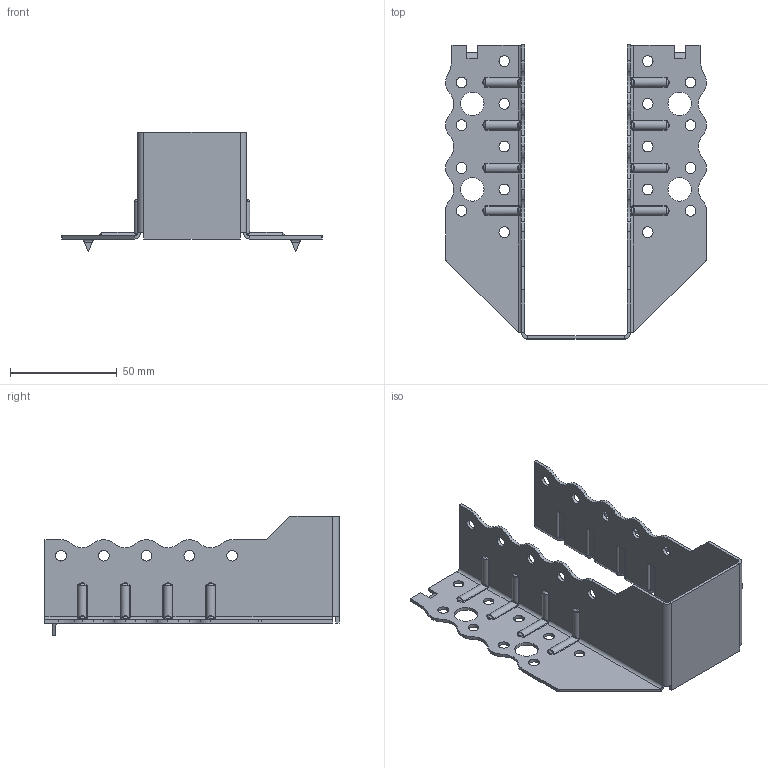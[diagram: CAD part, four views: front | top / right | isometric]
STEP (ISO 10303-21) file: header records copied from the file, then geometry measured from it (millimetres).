
FILE_DESCRIPTION (( 'STEP AP203' ), '1' );
FILE_NAME ('30607TOPK.STEP', '2021-04-08T14:19:42', ( '' ), ( '' ), 'SwSTEP 2.0', 'SolidWorks 2013', '' );
FILE_SCHEMA (( 'CONFIG_CONTROL_DESIGN' ));
Length unit declared in the file: millimetre
Products named in the file (1): 30607TOPK
Bounding box: 122 x 137.5 x 56 mm (x, y, z)
Volume: 30439.6 mm3; surface area: 43342.8 mm2
Topology: 1 solids, 1 shells, 509 faces, 1269 edges, 762 vertices
Faces by surface type: cylinder 251, bspline 120, plane 106, torus 16, sphere 16
Entity records: 22882 total; most frequent: CARTESIAN_POINT 11293, ORIENTED_EDGE 2538, DIRECTION 2267, EDGE_CURVE 1269, AXIS2_PLACEMENT_3D 864, VERTEX_POINT 762, EDGE_LOOP 573, VECTOR 539
